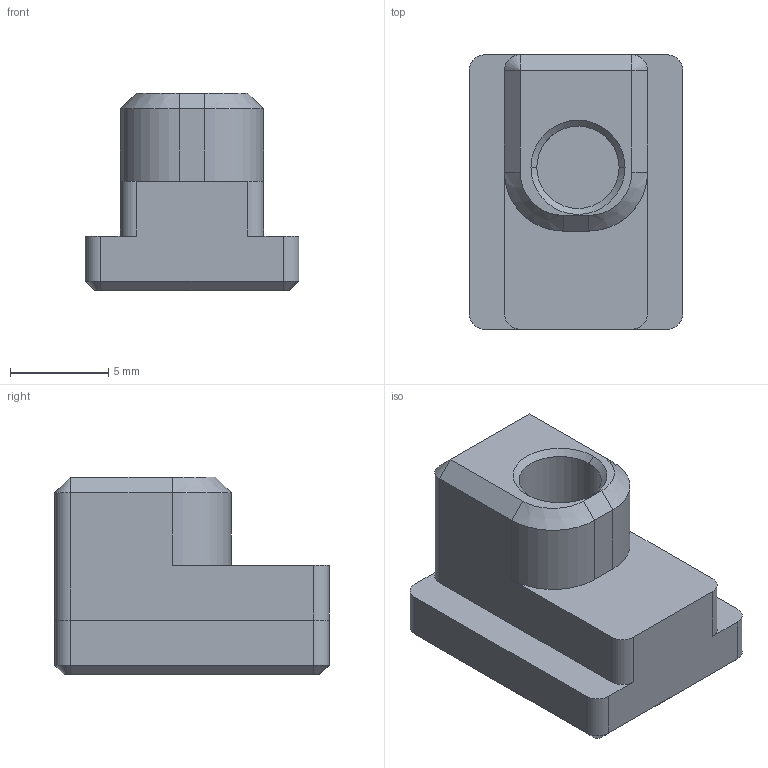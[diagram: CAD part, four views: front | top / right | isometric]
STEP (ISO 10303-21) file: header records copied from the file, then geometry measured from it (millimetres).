
FILE_DESCRIPTION((''),'2;1');
FILE_NAME('_000_9990004','2024-10-21T08:41:57',('Administrator'),(''),'CREO PARAMETRIC BY PTC INC, 2024063','CREO PARAMETRIC BY PTC INC, 2024063','');
FILE_SCHEMA(('CONFIG_CONTROL_DESIGN'));
Length unit declared in the file: millimetre
Products named in the file (1): _000_9990004
Bounding box: 10.9 x 14 x 10.1 mm (x, y, z)
Volume: 862.2 mm3; surface area: 754.2 mm2
Topology: 1 solids, 1 shells, 47 faces, 111 edges, 66 vertices
Faces by surface type: plane 24, cylinder 13, cone 10
Entity records: 1355 total; most frequent: DIRECTION 237, CARTESIAN_POINT 222, ORIENTED_EDGE 218, EDGE_CURVE 109, AXIS2_PLACEMENT_3D 81, VECTOR 75, LINE 75, VERTEX_POINT 66
